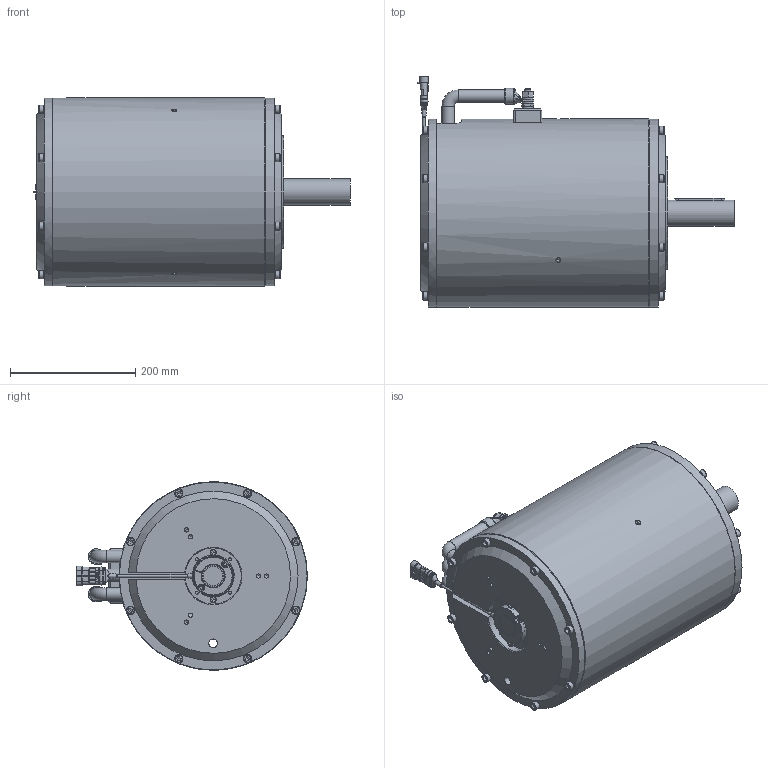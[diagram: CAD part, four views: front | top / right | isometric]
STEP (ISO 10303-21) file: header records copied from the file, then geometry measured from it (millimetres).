
FILE_DESCRIPTION(/* description */ (''),/* implementation_level */ '2;1');
FILE_NAME(/* name */ 'C:\Users\marco bosi\Desktop\SITO 2023\DISEGNI AC\AC-B14-B5.180\AC-B14.180.stp',/* time_stamp */ '2023-05-11T09:17:42+02:00',/* author */ ('marco bosi'),/* organization */ (''),/* preprocessor_version */ 'ST-DEVELOPER v18.1',/* originating_system */ 'Autodesk Inventor 2022',/* authorisation */ '');
FILE_SCHEMA (('AUTOMOTIVE_DESIGN { 1 0 10303 214 3 1 1 }'));
Products named in the file (1): AC-B14.180_Semplifica_1
Bounding box: 505.6 x 368.69 x 301 mm (x, y, z)
Volume: 9369438.2 mm3; surface area: 1163082.3 mm2
Topology: 5 solids, 5 shells, 5924 faces, 15259 edges, 9919 vertices
Faces by surface type: plane 4751, cylinder 381, cone 325, torus 252, bspline 203, sphere 12
Full cylindrical faces by diameter (mm): 3.242 x1, 4 x2, 4.917 x6, 5.5 x1, 6 x4, 6.3 x2, 6.5 x3, 6.647 x6, 8.376 x4, 10 x16, 10.106 x5, 10.2 x3, 10.5 x3, 13 x16, 13.835 x2, 15 x3, 20 x6, 21 x3, 25 x3, 27 x1, 35 x1, 36.4 x1, 42 x1, 42.5 x1, 45 x2, 50 x2, 58 x1, 60 x1, 65 x9, 67 x1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
Entity records: 195487 total; most frequent: CARTESIAN_POINT 43601, ORIENTED_EDGE 30332, DIRECTION 30298, EDGE_CURVE 15166, AXIS2_PLACEMENT_3D 10151, LINE 9996, VECTOR 9996, VERTEX_POINT 9919
